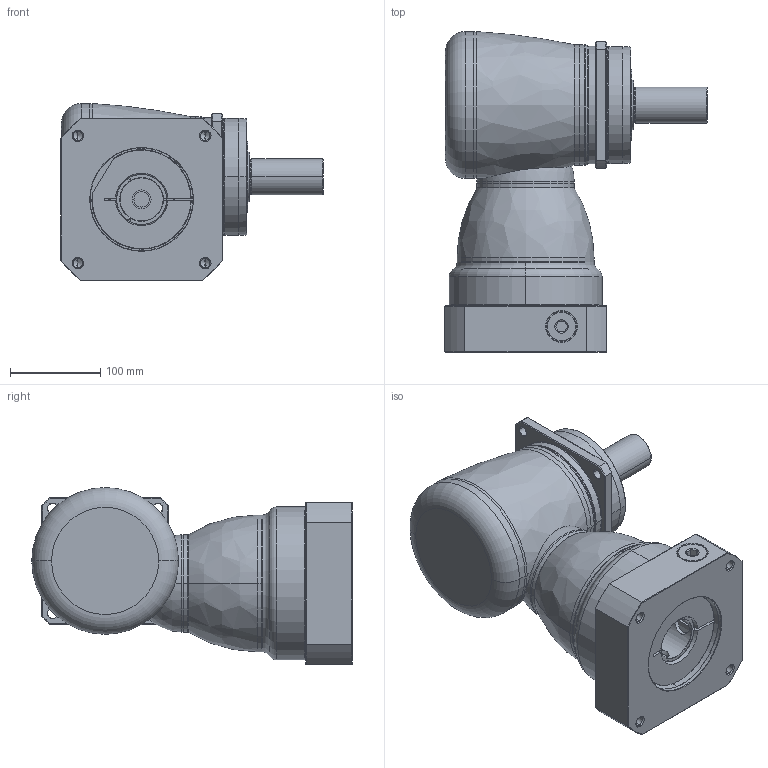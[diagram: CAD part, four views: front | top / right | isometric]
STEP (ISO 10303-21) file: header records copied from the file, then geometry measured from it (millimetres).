
FILE_DESCRIPTION((''),'2;1');
FILE_NAME('KF140_1ST_48-P0409B00101_ASM','2016-06-23T',('d01943'),(''),'PRO/ENGINEER BY PARAMETRIC TECHNOLOGY CORPORATION, 2008410','PRO/ENGINEER BY PARAMETRIC TECHNOLOGY CORPORATION, 2008410','');
FILE_SCHEMA(('CONFIG_CONTROL_DESIGN'));
Length unit declared in the file: millimetre
Products named in the file (11): P1008500002; P1804500001; P0915500001; P1315500001; P1007500001; P1318500601; P0409B00101; P0503B00016; P0912506201; 21711426021; KF140_1ST_48-P0409B00101_ASM
Assembly tree (10 placements, depth 2):
  KF140_1ST_48-P0409B00101_ASM
    P1008500002
    P1804500001
    P0915500001
    P1315500001
    P1007500001
    P1318500601
    P0409B00101
    P0503B00016
    P0912506201
    21711426021
Bounding box: 292 x 356 x 196.5 mm (x, y, z)
Volume: 5617353.5 mm3; surface area: 631683.6 mm2
Topology: 11 solids, 11 shells, 435 faces, 964 edges, 569 vertices
Faces by surface type: cylinder 142, cone 116, plane 94, torus 60, bspline 21, sphere 2
Entity records: 17150 total; most frequent: CARTESIAN_POINT 7281, DIRECTION 2187, ORIENTED_EDGE 1892, EDGE_CURVE 946, AXIS2_PLACEMENT_3D 927, VERTEX_POINT 569, EDGE_LOOP 497, CIRCLE 492
